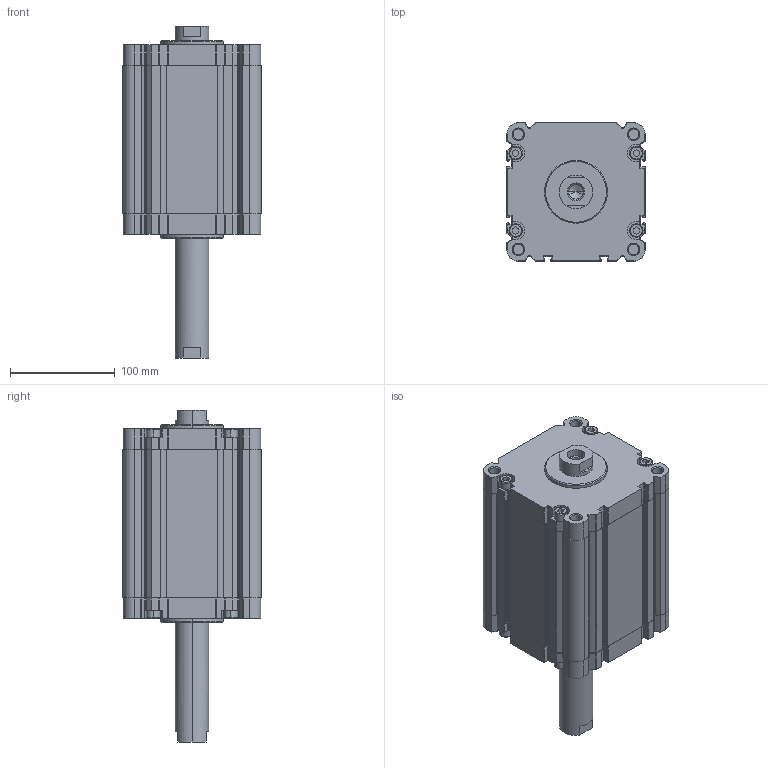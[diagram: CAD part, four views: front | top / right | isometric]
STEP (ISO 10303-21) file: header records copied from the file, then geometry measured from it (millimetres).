
FILE_DESCRIPTION (( 'STEP AP203' ), '1' );
FILE_NAME ('CDVU125-100F-P.STEP', '2020-07-24T18:45:20', ( '' ), ( '' ), 'SwSTEP 2.0', 'SolidWorks 2019', '' );
FILE_SCHEMA (( 'CONFIG_CONTROL_DESIGN' ));
Length unit declared in the file: millimetre
Products named in the file (1): CDVU125-100F-P
Bounding box: 132 x 132 x 317 mm (x, y, z)
Volume: 1998612.9 mm3; surface area: 288011.1 mm2
Topology: 2 solids, 2 shells, 666 faces, 1816 edges, 1184 vertices
Faces by surface type: plane 322, cylinder 276, cone 52, torus 16
Entity records: 21155 total; most frequent: DIRECTION 3778, CARTESIAN_POINT 3659, ORIENTED_EDGE 3616, EDGE_CURVE 1808, AXIS2_PLACEMENT_3D 1303, VERTEX_POINT 1184, LINE 1172, VECTOR 1172
